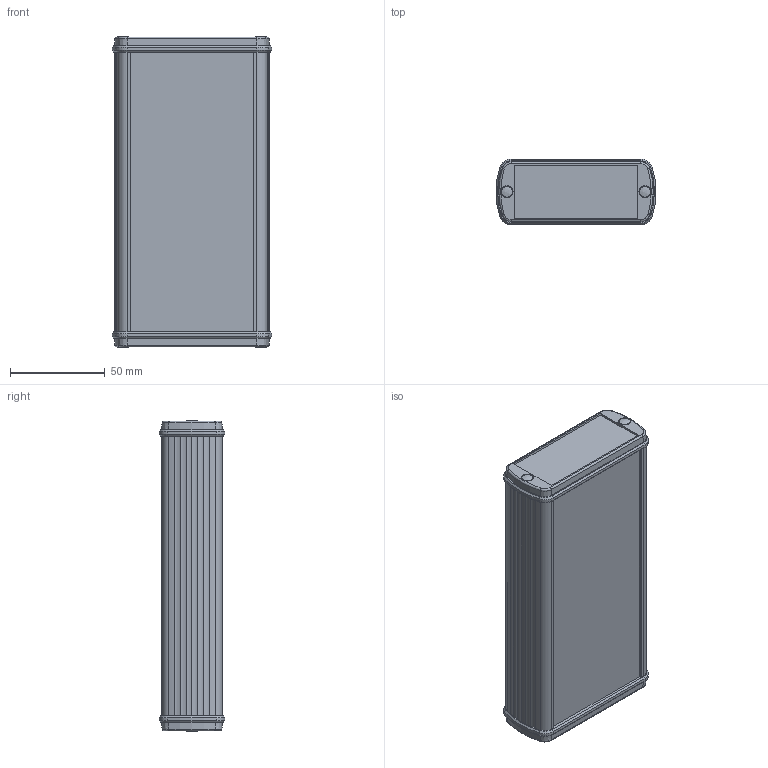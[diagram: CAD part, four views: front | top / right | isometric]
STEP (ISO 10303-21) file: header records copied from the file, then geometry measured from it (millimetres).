
FILE_DESCRIPTION(/* description */ (''),/* implementation_level */ '2;1');
FILE_NAME(/* name */ 'F:\User\Daten\Internetdaten-Entwicklung\Handelsmarketing\Zusammenbauzeichnungen_Conrad\Alubos\STEP\84086150.H_ABPH 800-150.stp',/* time_stamp */ '2016-05-30T07:55:24+02:00',/* author */ ('arempel'),/* organization */ (''),/* preprocessor_version */ 'ST-DEVELOPER v16.1',/* originating_system */ 'Autodesk Inventor 2016',/* authorisation */ '');
FILE_SCHEMA (('AUTOMOTIVE_DESIGN { 1 0 10303 214 3 1 1 }'));
Length unit declared in the file: millimetre
Products named in the file (13): PART1-7; 1008776_3DSYM4; PART1_1-4; 1008777_3DSYM-4; 84086150_ABPH 800-0150; PART1-4; 1004112_3DSYM-4; PART16-4; 1007893_3DSYM-4; SHR Z KT30X14 WN 1452 OG_3DSYM-4; 1003804_3Dsym-4; 84081000_ABD 800-4; 84086150.H_ABPH 800-150
Assembly tree (15 placements, depth 4):
  84086150.H_ABPH 800-150
    84086150_ABPH 800-0150
      1008776_3DSYM4
        PART1-7
      1008777_3DSYM-4
        PART1_1-4
    84081000_ABD 800-4  x2
      1004112_3DSYM-4
        PART1-4
      1007893_3DSYM-4
        PART16-4
      SHR Z KT30X14 WN 1452 OG_3DSYM-4
      1003804_3Dsym-4
Bounding box: 84.6 x 34.6 x 164.9 mm (x, y, z)
Volume: 87317.4 mm3; surface area: 105682.9 mm2
Topology: 14 solids, 14 shells, 1026 faces, 2700 edges, 1734 vertices
Faces by surface type: plane 485, cylinder 385, cone 64, torus 56, bspline 24, sphere 12
Full cylindrical faces by diameter (mm): 2.5 x4, 3 x4, 3.5 x4, 5 x8, 5.3 x4, 5.5 x4, 5.6 x4, 6.4 x8
Entity records: 20079 total; most frequent: CARTESIAN_POINT 4207, DIRECTION 3390, ORIENTED_EDGE 3236, EDGE_CURVE 1618, AXIS2_PLACEMENT_3D 1193, VERTEX_POINT 1062, LINE 1004, VECTOR 1004
